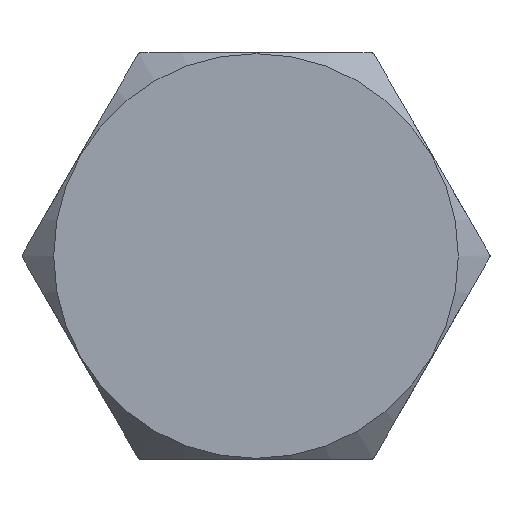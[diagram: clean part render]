
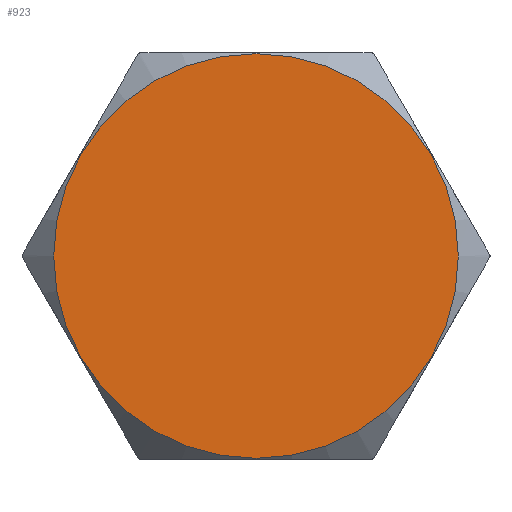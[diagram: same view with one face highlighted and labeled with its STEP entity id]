
A CAD part, front view. The second image highlights one B-rep face of the part: STEP entity #923.
In plain terms, the highlighted planar face has unit normal (0, -1, 0).
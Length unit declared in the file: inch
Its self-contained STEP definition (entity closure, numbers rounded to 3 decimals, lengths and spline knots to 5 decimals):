
#57=PLANE('',#1064);
#129=FACE_OUTER_BOUND('',#186,.T.);
#186=EDGE_LOOP('',(#793));
#337=CIRCLE('',#1061,0.498);
#430=VERTEX_POINT('',#1710);
#555=EDGE_CURVE('',#430,#430,#337,.T.);
#793=ORIENTED_EDGE('',*,*,#555,.F.);
#923=ADVANCED_FACE('',(#129),#57,.T.);
#1061=AXIS2_PLACEMENT_3D('',#1711,#1308,#1309);
#1064=AXIS2_PLACEMENT_3D('',#1715,#1315,#1316);
#1308=DIRECTION('center_axis',(0.,1.,0.));
#1309=DIRECTION('ref_axis',(0.,0.,1.));
#1315=DIRECTION('center_axis',(0.,-1.,0.));
#1316=DIRECTION('ref_axis',(0.,0.,-1.));
#1710=CARTESIAN_POINT('',(0.,0.,-0.498));
#1711=CARTESIAN_POINT('Origin',(0.,0.,0.));
#1715=CARTESIAN_POINT('Origin',(0.,0.,0.));
